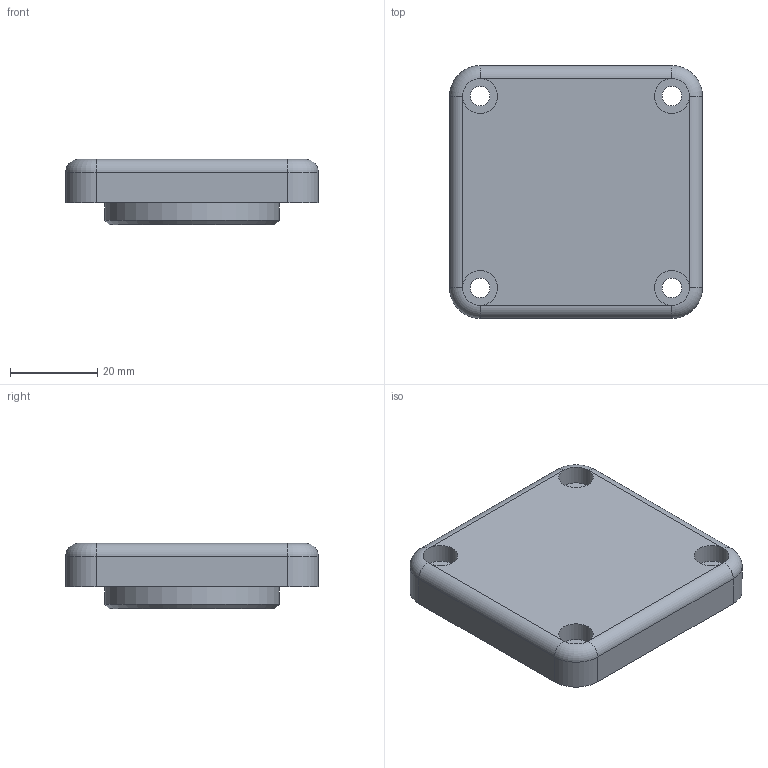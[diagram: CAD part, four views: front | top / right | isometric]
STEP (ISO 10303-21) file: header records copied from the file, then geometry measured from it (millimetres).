
FILE_DESCRIPTION(/* description */ (''),/* implementation_level */ '2;1');
FILE_NAME(/* name */ '',/* time_stamp */ '2026-07-02T16:39:04+09:00',/* author */ ('jhkim'),/* organization */ (''),/* preprocessor_version */ 'ST-DEVELOPER v20.1',/* originating_system */ 'Autodesk Inventor 2027',/* authorisation */ '');
FILE_SCHEMA (('AUTOMOTIVE_DESIGN { 1 0 10303 214 3 1 1 }'));
Length unit declared in the file: millimetre
Products named in the file (1): 뒷커버
Bounding box: 58 x 58 x 15 mm (x, y, z)
Volume: 35257.5 mm3; surface area: 9920.5 mm2
Topology: 1 solids, 1 shells, 35 faces, 75 edges, 44 vertices
Faces by surface type: cylinder 17, plane 12, torus 5, cone 1
Full cylindrical faces by diameter (mm): 4.5 x4, 8 x4, 40 x1
Entity records: 1009 total; most frequent: DIRECTION 192, CARTESIAN_POINT 155, ORIENTED_EDGE 150, AXIS2_PLACEMENT_3D 81, EDGE_CURVE 75, EDGE_LOOP 45, CIRCLE 45, VERTEX_POINT 44
